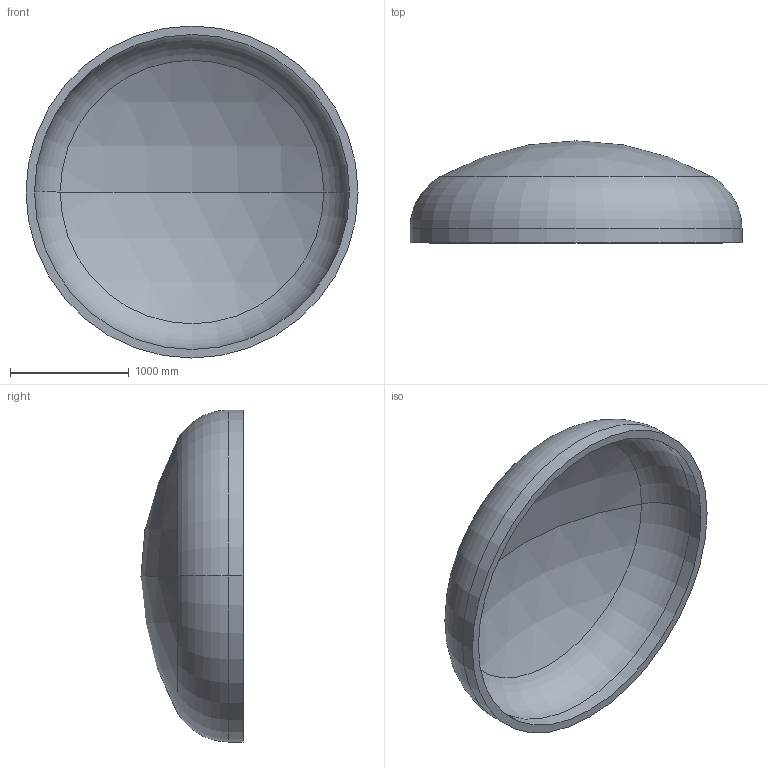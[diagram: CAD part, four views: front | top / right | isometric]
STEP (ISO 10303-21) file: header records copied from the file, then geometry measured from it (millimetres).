
FILE_DESCRIPTION (( 'STEP AP203' ), '1' );
FILE_NAME ('DIN 28013 Korbbogenform_-_Boden DIN 28013 - 2800 x 120 - I - s=72.step', '2016-07-01T17:09:55', ( '' ), ( '' ), 'SwSTEP 2.0', 'SolidWorks 2013', '' );
FILE_SCHEMA (( 'CONFIG_CONTROL_DESIGN' ));
Length unit declared in the file: millimetre
Products named in the file (1): DIN 28013 Korbbogenform_-_Boden DIN 28013 - 2800 x 120 - I - s=72
Bounding box: 2800 x 860.47 x 2800 mm (x, y, z)
Volume: 667385725.2 mm3; surface area: 19166402.7 mm2
Topology: 1 solids, 1 shells, 13 faces, 24 edges, 14 vertices
Faces by surface type: torus 4, cylinder 4, sphere 4, plane 1
Entity records: 407 total; most frequent: DIRECTION 72, CARTESIAN_POINT 52, ORIENTED_EDGE 48, AXIS2_PLACEMENT_3D 34, EDGE_CURVE 24, CIRCLE 20, EDGE_LOOP 14, VERTEX_POINT 14
